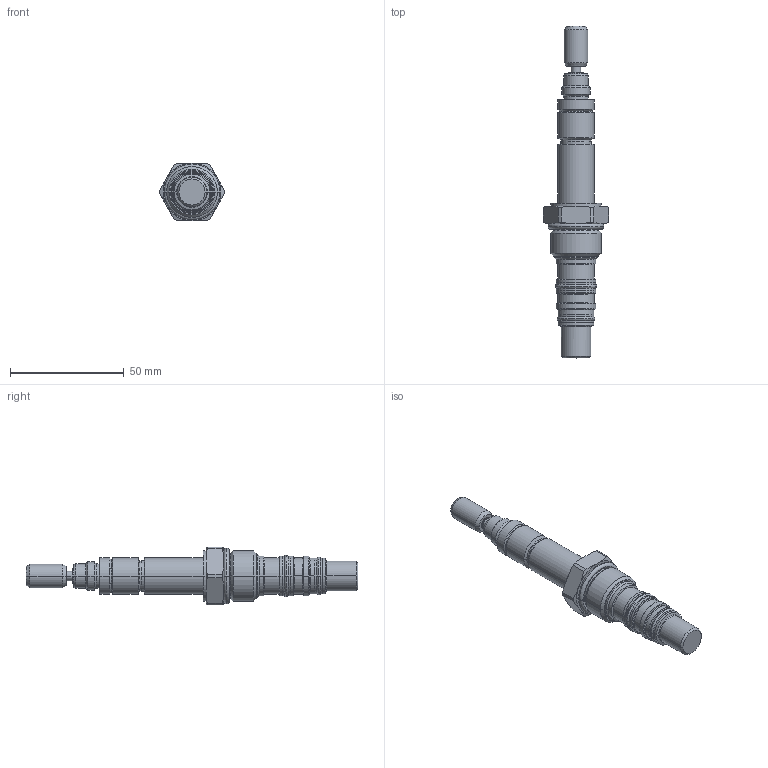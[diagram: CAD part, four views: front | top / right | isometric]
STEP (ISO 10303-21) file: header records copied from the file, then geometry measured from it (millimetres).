
FILE_DESCRIPTION((''),'2;1');
FILE_NAME('SXCL-3XJ_SW0002','2009-08-05T',('JCS'),(''),'PRO/ENGINEER BY PARAMETRIC TECHNOLOGY CORPORATION, 2008510','PRO/ENGINEER BY PARAMETRIC TECHNOLOGY CORPORATION, 2008510','');
FILE_SCHEMA(('CONFIG_CONTROL_DESIGN'));
Length unit declared in the file: inch
Products named in the file (1): SXCL-3XJ_SW0002
Bounding box: 28.57 x 145.82 x 25.4 mm (x, y, z)
Volume: 30122.9 mm3; surface area: 10516.5 mm2
Topology: 4 solids, 4 shells, 221 faces, 500 edges, 304 vertices
Faces by surface type: cylinder 72, cone 68, torus 50, plane 31
Entity records: 6363 total; most frequent: DIRECTION 1254, CARTESIAN_POINT 1124, ORIENTED_EDGE 1000, AXIS2_PLACEMENT_3D 557, EDGE_CURVE 500, CIRCLE 336, VERTEX_POINT 304, EDGE_LOOP 244
